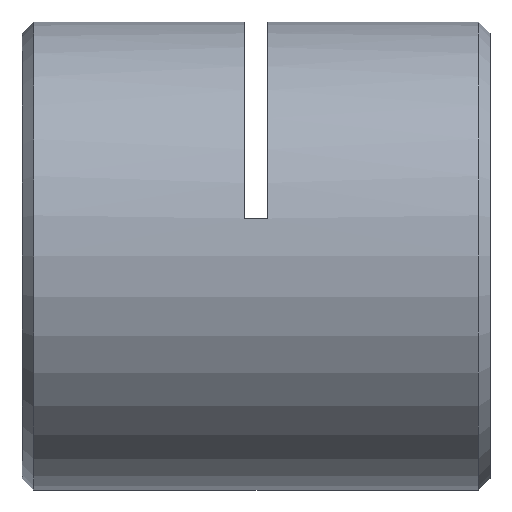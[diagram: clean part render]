
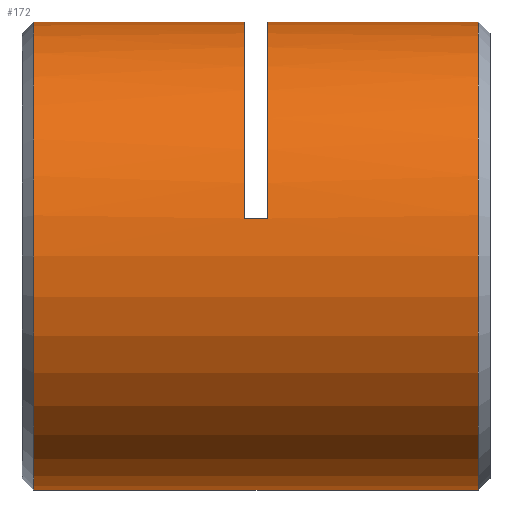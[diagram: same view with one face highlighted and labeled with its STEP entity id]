
A CAD part, left-side view. The second image highlights one B-rep face of the part: STEP entity #172.
In plain terms, the highlighted cylindrical face has radius 8 mm (diameter 16 mm), a partial arc.
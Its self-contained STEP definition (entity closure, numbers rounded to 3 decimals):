
#1 = EDGE_CURVE ( 'NONE', #1866, #113, #2005, .T. ) ;
#49 = DIRECTION ( 'NONE',  ( 0., -1., 0. ) ) ;
#52 = ORIENTED_EDGE ( 'NONE', *, *, #1927, .T. ) ;
#53 = EDGE_CURVE ( 'NONE', #2054, #113, #2102, .T. ) ;
#113 = VERTEX_POINT ( 'NONE', #288 ) ;
#123 = DIRECTION ( 'NONE',  ( 0., 1., 0. ) ) ;
#144 = CARTESIAN_POINT ( 'NONE',  ( 0., 0.65, 0. ) ) ;
#172 = ADVANCED_FACE ( 'NONE', ( #393 ), #2286, .T. ) ;
#281 = DIRECTION ( 'NONE',  ( 0., 0., 1. ) ) ;
#288 = CARTESIAN_POINT ( 'NONE',  ( 0., 7.85, 8. ) ) ;
#315 = LINE ( 'NONE', #1144, #2254 ) ;
#336 = EDGE_CURVE ( 'NONE', #2196, #1148, #3437, .T. ) ;
#393 = FACE_OUTER_BOUND ( 'NONE', #2521, .T. ) ;
#530 = EDGE_CURVE ( 'NONE', #1148, #3421, #1812, .T. ) ;
#557 = CARTESIAN_POINT ( 'NONE',  ( 0., 15.85, -8. ) ) ;
#564 = DIRECTION ( 'NONE',  ( 0., 1., 0. ) ) ;
#646 = ORIENTED_EDGE ( 'NONE', *, *, #336, .T. ) ;
#727 = DIRECTION ( 'NONE',  ( 0., 1., 0. ) ) ;
#874 = CARTESIAN_POINT ( 'NONE',  ( 0., 8.65, 0. ) ) ;
#1017 = CARTESIAN_POINT ( 'NONE',  ( 0., 0.25, 8. ) ) ;
#1022 = DIRECTION ( 'NONE',  ( 0., 1., 0. ) ) ;
#1137 = CARTESIAN_POINT ( 'NONE',  ( 0., 7.85, 0. ) ) ;
#1144 = CARTESIAN_POINT ( 'NONE',  ( 0., 0.25, -8. ) ) ;
#1148 = VERTEX_POINT ( 'NONE', #3206 ) ;
#1149 = AXIS2_PLACEMENT_3D ( 'NONE', #1652, #727, #2171 ) ;
#1175 = EDGE_CURVE ( 'NONE', #2646, #1866, #2537, .T. ) ;
#1357 = CARTESIAN_POINT ( 'NONE',  ( 0., 0.25, 8. ) ) ;
#1414 = VERTEX_POINT ( 'NONE', #2977 ) ;
#1456 = ORIENTED_EDGE ( 'NONE', *, *, #1175, .T. ) ;
#1652 = CARTESIAN_POINT ( 'NONE',  ( 0., 0.25, 0. ) ) ;
#1812 = CIRCLE ( 'NONE', #2549, 8. ) ;
#1823 = AXIS2_PLACEMENT_3D ( 'NONE', #144, #1022, #3174 ) ;
#1833 = VECTOR ( 'NONE', #1974, 1000. ) ;
#1866 = VERTEX_POINT ( 'NONE', #3586 ) ;
#1880 = EDGE_CURVE ( 'NONE', #2646, #3421, #315, .T. ) ;
#1927 = EDGE_CURVE ( 'NONE', #1414, #2196, #2104, .T. ) ;
#1974 = DIRECTION ( 'NONE',  ( 0., 1., 0. ) ) ;
#2005 = LINE ( 'NONE', #1357, #3031 ) ;
#2054 = VERTEX_POINT ( 'NONE', #2952 ) ;
#2102 = CIRCLE ( 'NONE', #3086, 8. ) ;
#2104 = CIRCLE ( 'NONE', #3346, 8. ) ;
#2171 = DIRECTION ( 'NONE',  ( 0., 0., 1. ) ) ;
#2196 = VERTEX_POINT ( 'NONE', #2961 ) ;
#2254 = VECTOR ( 'NONE', #2728, 1000. ) ;
#2271 = ORIENTED_EDGE ( 'NONE', *, *, #1, .T. ) ;
#2286 = CYLINDRICAL_SURFACE ( 'NONE', #1149, 8. ) ;
#2372 = ORIENTED_EDGE ( 'NONE', *, *, #53, .F. ) ;
#2521 = EDGE_LOOP ( 'NONE', ( #3959, #1456, #2271, #2372, #3822, #52, #646, #2586 ) ) ;
#2537 = CIRCLE ( 'NONE', #1823, 8. ) ;
#2549 = AXIS2_PLACEMENT_3D ( 'NONE', #3386, #49, #2814 ) ;
#2586 = ORIENTED_EDGE ( 'NONE', *, *, #530, .T. ) ;
#2646 = VERTEX_POINT ( 'NONE', #2914 ) ;
#2728 = DIRECTION ( 'NONE',  ( 0., 1., 0. ) ) ;
#2757 = LINE ( 'NONE', #2911, #1833 ) ;
#2814 = DIRECTION ( 'NONE',  ( 0., 0., -1. ) ) ;
#2911 = CARTESIAN_POINT ( 'NONE',  ( -7.897, 8.25, 1.28 ) ) ;
#2914 = CARTESIAN_POINT ( 'NONE',  ( 0., 0.65, -8. ) ) ;
#2952 = CARTESIAN_POINT ( 'NONE',  ( -7.897, 7.85, 1.28 ) ) ;
#2961 = CARTESIAN_POINT ( 'NONE',  ( 0., 8.65, 8. ) ) ;
#2977 = CARTESIAN_POINT ( 'NONE',  ( -7.897, 8.65, 1.28 ) ) ;
#3028 = DIRECTION ( 'NONE',  ( 0., 1., 0. ) ) ;
#3031 = VECTOR ( 'NONE', #123, 1000. ) ;
#3086 = AXIS2_PLACEMENT_3D ( 'NONE', #1137, #3296, #3535 ) ;
#3174 = DIRECTION ( 'NONE',  ( 0., 0., 1. ) ) ;
#3206 = CARTESIAN_POINT ( 'NONE',  ( 0., 15.85, 8. ) ) ;
#3231 = EDGE_CURVE ( 'NONE', #2054, #1414, #2757, .T. ) ;
#3296 = DIRECTION ( 'NONE',  ( 0., 1., 0. ) ) ;
#3346 = AXIS2_PLACEMENT_3D ( 'NONE', #874, #3028, #281 ) ;
#3386 = CARTESIAN_POINT ( 'NONE',  ( 0., 15.85, 0. ) ) ;
#3421 = VERTEX_POINT ( 'NONE', #557 ) ;
#3437 = LINE ( 'NONE', #1017, #3664 ) ;
#3535 = DIRECTION ( 'NONE',  ( 0., 0., 1. ) ) ;
#3586 = CARTESIAN_POINT ( 'NONE',  ( 0., 0.65, 8. ) ) ;
#3664 = VECTOR ( 'NONE', #564, 1000. ) ;
#3822 = ORIENTED_EDGE ( 'NONE', *, *, #3231, .T. ) ;
#3959 = ORIENTED_EDGE ( 'NONE', *, *, #1880, .F. ) ;
